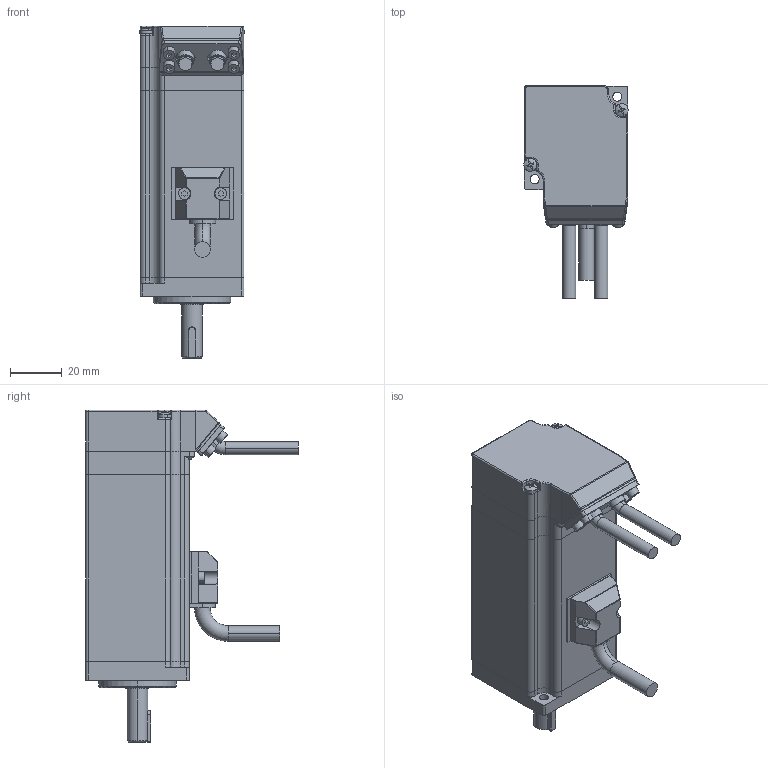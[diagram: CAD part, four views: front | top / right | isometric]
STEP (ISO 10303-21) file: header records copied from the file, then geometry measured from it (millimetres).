
FILE_DESCRIPTION (( 'STEP AP203' ), '1' );
FILE_NAME ('萇儂軞蚾-L18-BL(A1+S1).STEP', '2021-10-26T07:31:27', ( '' ), ( '' ), 'SwSTEP 2.0', 'SolidWorks 2018', '' );
FILE_SCHEMA (( 'CONFIG_CONTROL_DESIGN' ));
Length unit declared in the file: millimetre
Products named in the file (1): 萇儂軞蚾-L18-BL(A1+S1)
Bounding box: 40.14 x 82.04 x 128 mm (x, y, z)
Volume: 81331.3 mm3; surface area: 57796.1 mm2
Topology: 25 solids, 26 shells, 890 faces, 2189 edges, 1388 vertices
Faces by surface type: cylinder 398, plane 348, cone 100, torus 21, sphere 17, bspline 6
Entity records: 27059 total; most frequent: CARTESIAN_POINT 5180, DIRECTION 4850, ORIENTED_EDGE 4350, EDGE_CURVE 2175, AXIS2_PLACEMENT_3D 1864, VERTEX_POINT 1386, VECTOR 1122, LINE 1122
